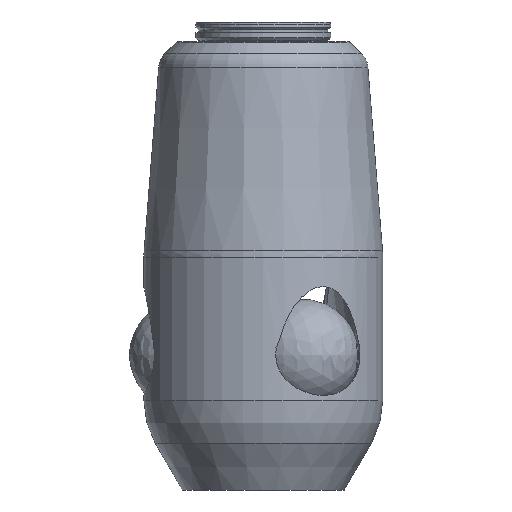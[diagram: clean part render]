
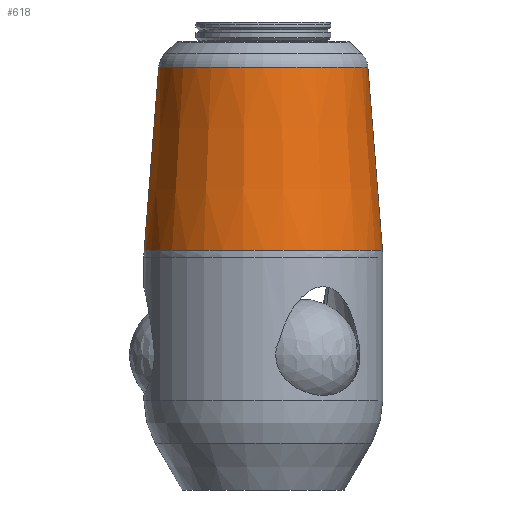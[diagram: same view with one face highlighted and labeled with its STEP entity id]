
A CAD part, left-side view. The second image highlights one B-rep face of the part: STEP entity #618.
In plain terms, the highlighted conical face has half-angle 4.543 degrees and reference radius 33.26 mm.
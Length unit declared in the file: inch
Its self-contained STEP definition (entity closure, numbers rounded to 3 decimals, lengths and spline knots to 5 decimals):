
#85=LINE('',#969,#105);
#105=VECTOR('',#770,1.30944);
#125=CONICAL_SURFACE('',#668,1.30944,0.079);
#133=FACE_OUTER_BOUND('',#173,.T.);
#173=EDGE_LOOP('',(#433,#434,#435,#436,#437,#438));
#220=CIRCLE('',#663,1.22617);
#221=CIRCLE('',#664,1.22617);
#225=CIRCLE('',#669,1.39686);
#226=CIRCLE('',#670,1.39686);
#269=VERTEX_POINT('',#956);
#270=VERTEX_POINT('',#957);
#273=VERTEX_POINT('',#966);
#274=VERTEX_POINT('',#967);
#333=EDGE_CURVE('',#269,#270,#220,.T.);
#334=EDGE_CURVE('',#270,#269,#221,.T.);
#338=EDGE_CURVE('',#273,#274,#225,.T.);
#339=EDGE_CURVE('',#273,#270,#85,.T.);
#340=EDGE_CURVE('',#274,#273,#226,.T.);
#433=ORIENTED_EDGE('',*,*,#338,.F.);
#434=ORIENTED_EDGE('',*,*,#339,.T.);
#435=ORIENTED_EDGE('',*,*,#333,.F.);
#436=ORIENTED_EDGE('',*,*,#334,.F.);
#437=ORIENTED_EDGE('',*,*,#339,.F.);
#438=ORIENTED_EDGE('',*,*,#340,.F.);
#618=ADVANCED_FACE('',(#133),#125,.T.);
#663=AXIS2_PLACEMENT_3D('',#958,#756,#757);
#664=AXIS2_PLACEMENT_3D('',#959,#758,#759);
#668=AXIS2_PLACEMENT_3D('',#965,#766,#767);
#669=AXIS2_PLACEMENT_3D('',#968,#768,#769);
#670=AXIS2_PLACEMENT_3D('',#970,#771,#772);
#756=DIRECTION('center_axis',(0.,0.,1.));
#757=DIRECTION('ref_axis',(0.,-1.,0.));
#758=DIRECTION('center_axis',(0.,0.,1.));
#759=DIRECTION('ref_axis',(0.,-1.,0.));
#766=DIRECTION('center_axis',(0.,0.,-1.));
#767=DIRECTION('ref_axis',(0.,1.,0.));
#768=DIRECTION('center_axis',(0.,0.,-1.));
#769=DIRECTION('ref_axis',(0.,-1.,0.));
#770=DIRECTION('',(0.,0.079,0.997));
#771=DIRECTION('center_axis',(0.,0.,-1.));
#772=DIRECTION('ref_axis',(0.,-1.,0.));
#956=CARTESIAN_POINT('',(1.22617,0.,4.17697));
#957=CARTESIAN_POINT('',(0.,-1.22617,4.17697));
#958=CARTESIAN_POINT('Origin',(0.,0.,4.17697));
#959=CARTESIAN_POINT('Origin',(0.,0.,4.17697));
#965=CARTESIAN_POINT('Origin',(0.,0.,3.12913));
#966=CARTESIAN_POINT('',(0.,-1.39686,2.02901));
#967=CARTESIAN_POINT('',(1.39686,0.,2.02901));
#968=CARTESIAN_POINT('Origin',(0.,0.,2.02901));
#969=CARTESIAN_POINT('',(0.,-1.30944,3.12913));
#970=CARTESIAN_POINT('Origin',(0.,0.,2.02901));
